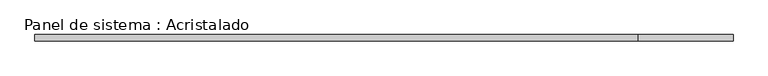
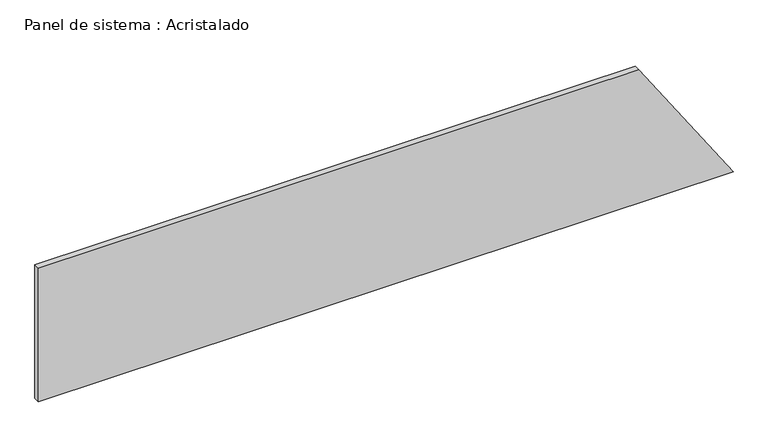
"""IFC4 building model written with IfcOpenShell, lengths in millimetres: plate geometry, Panel de sistema : Acristalado."""

import ifcopenshell
import ifcopenshell.guid

model = None  # the IFC model being written
_history = None  # IfcOwnerHistory: only IFC2X3 demands one
_inside = {}  # id of a spatial element -> (the spatial element, [elements in it])
_under = {}  # id of a project, library or spatial element -> (it, [spatial elements below it])
_declared = {}  # id of a project -> (the project, [libraries it declares])
_typed = {}  # id of a type object -> (the type object, [elements of that type])
_made_of = {}  # id of a material, layer set ... -> (it, [elements and type objects made of it])


def new_model(schema):
    """Start an empty IFC model of exactly this schema.

    Asked for "IFC4X3", IfcOpenShell would pick the latest addendum, in which some entities
    have other attributes; the version numbers below select the first issue.
    IFC2X3 requires an IfcOwnerHistory on every rooted entity: one is made here for all.
    """
    global model, _history
    if schema == "IFC4X3":
        model = ifcopenshell.file(schema_version=(4, 3, 0, 0))
    else:
        model = ifcopenshell.file(schema=schema)
    _inside.clear()
    _under.clear()
    _declared.clear()
    _typed.clear()
    _made_of.clear()
    _history = None
    if model.schema == "IFC2X3":
        org = make("IfcOrganization", Name="unknown")
        user = make(
            "IfcPersonAndOrganization",
            ThePerson=make("IfcPerson", FamilyName="unknown"),
            TheOrganization=org,
        )
        app = make(
            "IfcApplication",
            ApplicationDeveloper=org,
            Version="unknown",
            ApplicationFullName="unknown",
            ApplicationIdentifier="unknown",
        )
        _history = make(
            "IfcOwnerHistory",
            OwningUser=user,
            OwningApplication=app,
            ChangeAction="ADDED",
            CreationDate=0,
        )
    return model


def make(cls, **values):
    """One entity of the class cls with the attributes given. An attribute that is None is left unset."""
    return model.create_entity(
        cls, **{name: value for name, value in values.items() if value is not None}
    )


def rooted(cls, **values):
    """An entity with a GlobalId (a new one), such as an element, a storey or a relation."""
    return make(cls, GlobalId=ifcopenshell.guid.new(), OwnerHistory=_history, **values)


def si_unit(unit_type, name, prefix=None):
    """IfcSIUnit, for example si_unit("LENGTHUNIT", "METRE", prefix="MILLI")."""
    return make("IfcSIUnit", UnitType=unit_type, Prefix=prefix, Name=name)


def assignment(units):
    """IfcUnitAssignment: the units of a project."""
    return None if units is None else make("IfcUnitAssignment", Units=units)


def point(xyz):
    """IfcCartesianPoint."""
    return None if xyz is None else make("IfcCartesianPoint", Coordinates=xyz)


def direction(xyz):
    """IfcDirection."""
    return None if xyz is None else make("IfcDirection", DirectionRatios=xyz)


def frame(location, z_axis=None, x_axis=None):
    """IfcAxis2Placement3D, a coordinate frame: its origin and axes. An axis left out is left unset."""
    return make(
        "IfcAxis2Placement3D",
        Location=point(location),
        Axis=direction(z_axis),
        RefDirection=direction(x_axis),
    )


def origin():
    """The frame at (0, 0, 0) with its axes left unset."""
    return frame((0.0, 0.0, 0.0))


def place(relative_to, where):
    """IfcLocalPlacement: puts the frame where relative to a parent placement (None: the world)."""
    return make(
        "IfcLocalPlacement", PlacementRelTo=relative_to, RelativePlacement=where
    )


def context(
    kind, dimensions, precision=None, world=None, true_north=None, identifier=None
):
    """IfcGeometricRepresentationContext, for example the 3D "Model" context."""
    return make(
        "IfcGeometricRepresentationContext",
        ContextIdentifier=identifier,
        ContextType=kind,
        CoordinateSpaceDimension=dimensions,
        Precision=precision,
        WorldCoordinateSystem=world,
        TrueNorth=true_north,
    )


def project(units=None, contexts=None):
    """IfcProject with its units and contexts."""
    return rooted(
        "IfcProject",
        Name="project",
        RepresentationContexts=contexts,
        UnitsInContext=assignment(units),
    )


def spatial(cls, under=None, at=None, **own):
    """A site, building, storey or space (cls), placed at a placement, below another one or the project."""
    s = rooted(cls, ObjectPlacement=at, **own)
    if under is not None:
        _under.setdefault(under.id(), (under, []))[1].append(s)
    return s


def polyline(points):
    """IfcPolyline through the points."""
    return make("IfcPolyline", Points=[point(p) for p in points])


def outline(outer, holes=None, kind="AREA"):
    """IfcArbitraryClosedProfileDef: a profile drawn as a closed curve; with holes, ...WithVoids."""
    if holes is None:
        return make("IfcArbitraryClosedProfileDef", ProfileType=kind, OuterCurve=outer)
    return make(
        "IfcArbitraryProfileDefWithVoids",
        ProfileType=kind,
        OuterCurve=outer,
        InnerCurves=holes,
    )


def extrude(swept, where, along, depth):
    """IfcExtrudedAreaSolid: the profile swept, set in the frame where, extruded along a direction by depth."""
    return make(
        "IfcExtrudedAreaSolid",
        SweptArea=swept,
        Position=where,
        ExtrudedDirection=direction(along),
        Depth=depth,
    )


def shape(context_of_items, identifier, shape_type, items):
    """IfcShapeRepresentation: the items that make up one representation, for example the "Body"."""
    return make(
        "IfcShapeRepresentation",
        ContextOfItems=context_of_items,
        RepresentationIdentifier=identifier,
        RepresentationType=shape_type,
        Items=items,
    )


def source(mapping_origin, context_of_items, identifier, shape_type, items):
    """IfcRepresentationMap: a shape defined once, which mapped items show again and again."""
    return make(
        "IfcRepresentationMap",
        MappingOrigin=mapping_origin,
        MappedRepresentation=shape(context_of_items, identifier, shape_type, items),
    )


def transform(
    local_origin,
    x_axis=None,
    y_axis=None,
    z_axis=None,
    scale=None,
    scale2=None,
    scale3=None,
    uniform=True,
):
    """IfcCartesianTransformationOperator3D, or its non-uniform kind. x_axis, y_axis, z_axis: its Axis1, 2, 3."""
    if uniform:
        return make(
            "IfcCartesianTransformationOperator3D",
            Axis1=direction(x_axis),
            Axis2=direction(y_axis),
            LocalOrigin=point(local_origin),
            Scale=scale,
            Axis3=direction(z_axis),
        )
    return make(
        "IfcCartesianTransformationOperator3DnonUniform",
        Axis1=direction(x_axis),
        Axis2=direction(y_axis),
        LocalOrigin=point(local_origin),
        Scale=scale,
        Axis3=direction(z_axis),
        Scale2=scale2,
        Scale3=scale3,
    )


def mapped(mapping_source, mapping_target):
    """IfcMappedItem: shows the shape of a source again, moved by a transform."""
    return make(
        "IfcMappedItem", MappingSource=mapping_source, MappingTarget=mapping_target
    )


def made_of(thing, what):
    """Note that an element or type object is made of a material, layer set ...; save() writes the relation."""
    if what is not None:
        _made_of.setdefault(what.id(), (what, []))[1].append(thing)
    return thing


def element(
    cls,
    number,
    at=None,
    inside=None,
    cuts=None,
    type_object=None,
    material=None,
    context=None,
    identifier="Body",
    shape_type=None,
    held_by="IfcProductDefinitionShape",
    body=None,
    shapes=None,
    **own,
):
    """One element of the class cls, such as IfcWall. Its Tag is "e" and its number.

    at: its placement. inside: the storey or other place that contains it. cuts: it is an
    opening in that element (IfcRelVoidsElement). A single representation is given by context,
    identifier, shape_type and body (its items); several are given by shapes. held_by: the class
    of the entity that holds the representations. save() writes the other relations.
    """
    e = rooted(cls, Tag="e%d" % number, ObjectPlacement=at, **own)
    if body is not None:
        shapes = [shape(context, identifier, shape_type, body)]
    if shapes is not None:
        e.Representation = make(held_by, Representations=shapes)
    if inside is not None:
        _inside.setdefault(inside.id(), (inside, []))[1].append(e)
    if cuts is not None:
        rooted(
            "IfcRelVoidsElement", RelatingBuildingElement=cuts, RelatedOpeningElement=e
        )
    if type_object is not None:
        _typed.setdefault(type_object.id(), (type_object, []))[1].append(e)
    return made_of(e, material)


def aggregate(whole, parts):
    """IfcRelAggregates: a whole, such as a stair, and the parts it consists of."""
    return rooted("IfcRelAggregates", RelatingObject=whole, RelatedObjects=parts)


def save(model, path):
    """Write the relations noted so far, then the file.

    IfcRelAggregates (storeys below a building ...), IfcRelContainedInSpatialStructure (elements
    in a storey), IfcRelDefinesByType, IfcRelAssociatesMaterial and IfcRelDeclares: one each for
    every whole, place, type object, material and project.
    """
    for whole, parts in _under.values():
        aggregate(whole, parts)
    for where, things in _inside.values():
        rooted(
            "IfcRelContainedInSpatialStructure",
            RelatedElements=things,
            RelatingStructure=where,
        )
    for kind, things in _typed.values():
        rooted("IfcRelDefinesByType", RelatedObjects=things, RelatingType=kind)
    for what, things in _made_of.values():
        rooted("IfcRelAssociatesMaterial", RelatedObjects=things, RelatingMaterial=what)
    for by, libraries in _declared.values():
        rooted("IfcRelDeclares", RelatingContext=by, RelatedDefinitions=libraries)
    model.write(path)


def panel_de_sistema_acristalado_1b2d553e(model_context):
    return source(origin(), model_context, "Body", "SweptSolid", [
        extrude(outline(polyline([(0.0, -1125.0559132), (0.0, 1125.0559132), (456.0, 819.6987703), (456.0, -1125.0559132), (0.0, -1125.0559132)])), frame((0.0, -10.0, 0.0), z_axis=(0.0, 1.0, 0.0), x_axis=(0.0, 0.0, 1.0)), (0.0, 0.0, 1.0), 20.0),
    ])


if __name__ == "__main__":
    model = new_model("IFC4")
    model_context = context("Model", 3, world=origin())
    ifc_project = project(units=[si_unit("LENGTHUNIT", "METRE", prefix="MILLI")], contexts=[model_context])
    site = spatial("IfcSite", under=ifc_project)
    building = spatial("IfcBuilding", under=site)
    placement = place(None, origin())
    panel_de_sistema_acristalado_shape = panel_de_sistema_acristalado_1b2d553e(model_context)
    element("IfcPlate", 1, ObjectType="Panel de sistema : Acristalado", at=placement, inside=building, context=model_context, shape_type="MappedRepresentation", body=[
        mapped(panel_de_sistema_acristalado_shape, transform((0.0, 0.0, 0.0), x_axis=(1.0, 0.0, 0.0), y_axis=(0.0, 1.0, 0.0), z_axis=(0.0, 0.0, 1.0))),
    ])
    save(model, "model.ifc")
